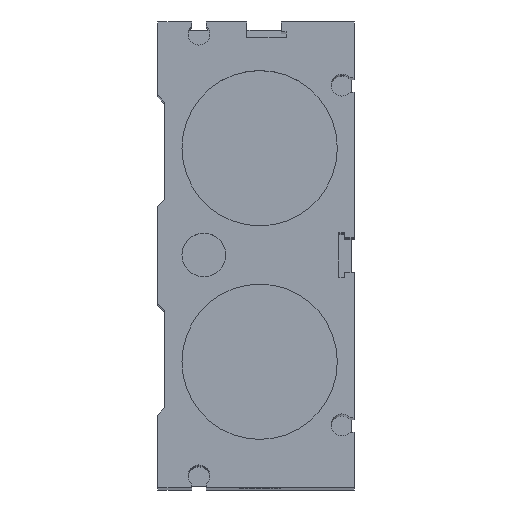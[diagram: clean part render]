
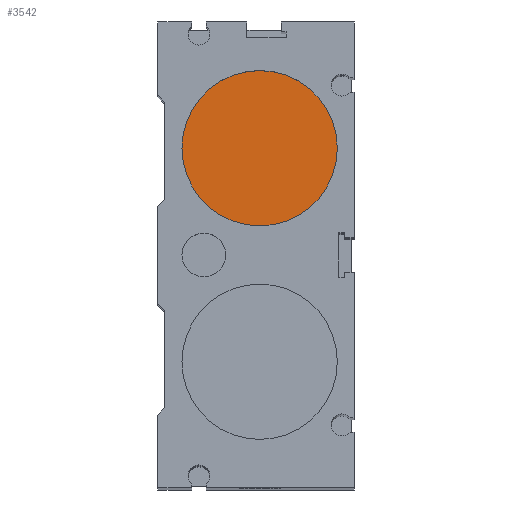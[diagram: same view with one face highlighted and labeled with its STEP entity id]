
A CAD part, top view. The second image highlights one B-rep face of the part: STEP entity #3542.
In plain terms, the highlighted planar face has unit normal (0, 0, 1).
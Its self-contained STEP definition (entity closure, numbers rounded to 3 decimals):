
#3511=CARTESIAN_POINT('',(16.0,22.0,438.0));
#3512=VERTEX_POINT('',#3511);
#3513=CARTESIAN_POINT('',(0.,22.0,438.0));
#3514=DIRECTION('',(0.0,0.0,1.0));
#3515=DIRECTION('',(-1.0,0.0,0.0));
#3516=AXIS2_PLACEMENT_3D('',#3513,#3514,#3515);
#3517=CIRCLE('',#3516,16.0);
#3518=EDGE_CURVE('',#3512,#3512,#3517,.T.);
#3534=CARTESIAN_POINT('',(0.,22.0,438.0));
#3535=DIRECTION('',(0.0,0.0,-1.0));
#3536=DIRECTION('',(-1.0,0.0,0.0));
#3537=AXIS2_PLACEMENT_3D('',#3534,#3535,#3536);
#3538=PLANE('',#3537);
#3539=ORIENTED_EDGE('',*,*,#3518,.T.);
#3540=EDGE_LOOP('',(#3539));
#3541=FACE_OUTER_BOUND('',#3540,.T.);
#3542=ADVANCED_FACE('',(#3541),#3538,.F.);
